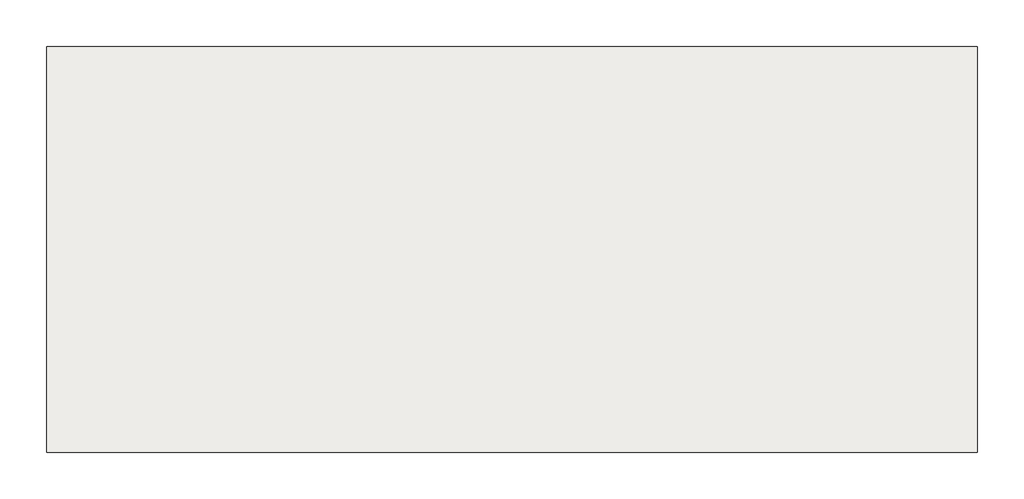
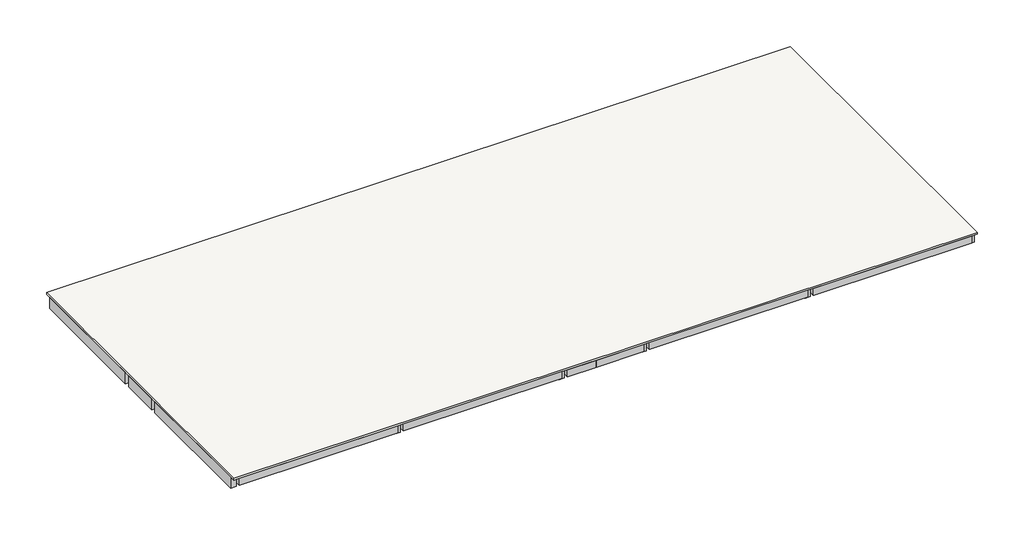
# One storey: 21 beams, 1 slab.
"""IFC4 building model written with IfcOpenShell, lengths in millimetres."""

from ifc_helpers import new_model, si_unit, frame, origin, place, context, project, spatial, polyline, outline, extrude, faceted_brep, element, save

model = new_model("IFC4")

# Units and contexts
model_context = context("Model", 3, world=origin())
ifc_project = project(units=[si_unit("LENGTHUNIT", "METRE", prefix="MILLI")], contexts=[model_context])

# Site, building, storey
site = spatial("IfcSite", under=ifc_project)
building = spatial("IfcBuilding", under=site)
storey = spatial("IfcBuildingStorey", under=building, Name="屋顶", Elevation=9000.0)

# Beams
placement = place(None, origin())
element("IfcBeam", 1, ObjectType="混凝土 - 矩形梁 : KL1", at=placement, inside=storey, context=model_context, shape_type="Brep", body=[
    faceted_brep([(-16195.2046881, -564.7297059, 8400.0), (-16195.2046881, 5195.2702941, 8400.0), (-16195.2046881, 5195.2702941, 8920.0), (-16195.2046881, 3415.2702941, 8920.0), (-16195.2046881, 3215.2702941, 8920.0), (-16195.2046881, 1415.2702941, 8920.0), (-16195.2046881, 1215.2702941, 8920.0), (-16195.2046881, -564.7297059, 8920.0), (-16435.2046881, 5195.2702941, 8400.0), (-16435.2046881, -564.7297059, 8400.0), (-16435.2046881, -564.7297059, 8920.0), (-16435.2046881, 5195.2702941, 8920.0)], [[[0, 1, 2, 3, 4, 5, 6, 7]], [[8, 1, 0, 9]], [[8, 9, 10, 11]], [[1, 8, 11, 2]], [[9, 0, 7, 10]], [[7, 6, 5, 4, 3, 2, 11, 10]]]),
    faceted_brep([(-16435.2046881, -8564.7297059, 8400.0), (-16195.2046881, -8564.7297059, 8400.0), (-16195.2046881, -8564.7297059, 8920.0), (-16435.2046881, -8564.7297059, 8920.0), (-16195.2046881, -2804.7297059, 8400.0), (-16435.2046881, -2804.7297059, 8400.0), (-16435.2046881, -2804.7297059, 8920.0), (-16195.2046881, -2804.7297059, 8920.0), (-16195.2046881, -4584.7297059, 8920.0), (-16195.2046881, -4784.7297059, 8920.0), (-16195.2046881, -6584.7297059, 8920.0), (-16195.2046881, -6784.7297059, 8920.0)], [[[0, 1, 2, 3]], [[4, 5, 6, 7]], [[1, 4, 7, 8, 9, 10, 11, 2]], [[1, 0, 5, 4]], [[5, 0, 3, 6]], [[3, 2, 11, 10, 9, 8, 7, 6]]]),
    faceted_brep([(-16435.2046881, -2564.7297059, 8400.0), (-16195.2046881, -2564.7297059, 8400.0), (-16195.2046881, -2564.7297059, 8920.0), (-16435.2046881, -2564.7297059, 8920.0), (-16195.2046881, -804.7297059, 8400.0), (-16435.2046881, -804.7297059, 8400.0), (-16435.2046881, -804.7297059, 8920.0), (-16195.2046881, -804.7297059, 8920.0)], [[[0, 1, 2, 3]], [[4, 5, 6, 7]], [[1, 4, 7, 2]], [[1, 0, 5, 4]], [[5, 0, 3, 6]], [[3, 2, 7, 6]]]),
])
element("IfcBeam", 2, ObjectType="混凝土 - 矩形梁 : KL1", at=placement, inside=storey, context=model_context, shape_type="Brep", body=[
    faceted_brep([(-8995.2046881, -564.7297059, 8400.0), (-8995.2046881, 5195.2702941, 8400.0), (-8995.2046881, 5195.2702941, 8920.0), (-8995.2046881, 3415.2702941, 8920.0), (-8995.2046881, 3215.2702941, 8920.0), (-8995.2046881, 1415.2702941, 8920.0), (-8995.2046881, 1215.2702941, 8920.0), (-8995.2046881, -564.7297059, 8920.0), (-9235.2046881, 5195.2702941, 8400.0), (-9235.2046881, -564.7297059, 8400.0), (-9235.2046881, -564.7297059, 8920.0), (-9235.2046881, 1215.2702941, 8920.0), (-9235.2046881, 1415.2702941, 8920.0), (-9235.2046881, 3215.2702941, 8920.0), (-9235.2046881, 3415.2702941, 8920.0), (-9235.2046881, 5195.2702941, 8920.0)], [[[0, 1, 2, 3, 4, 5, 6, 7]], [[8, 1, 0, 9]], [[8, 9, 10, 11, 12, 13, 14, 15]], [[1, 8, 15, 2]], [[9, 0, 7, 10]], [[7, 6, 5, 4, 3, 2, 15, 14, 13, 12, 11, 10]]]),
    faceted_brep([(-9235.2046881, -8564.7297059, 8400.0), (-8995.2046881, -8564.7297059, 8400.0), (-8995.2046881, -8564.7297059, 8920.0), (-9235.2046881, -8564.7297059, 8920.0), (-8995.2046881, -2804.7297059, 8400.0), (-9235.2046881, -2804.7297059, 8400.0), (-9235.2046881, -2804.7297059, 8920.0), (-8995.2046881, -2804.7297059, 8920.0), (-8995.2046881, -4584.7297059, 8920.0), (-8995.2046881, -4784.7297059, 8920.0), (-8995.2046881, -6584.7297059, 8920.0), (-8995.2046881, -6784.7297059, 8920.0), (-9235.2046881, -6784.7297059, 8920.0), (-9235.2046881, -6584.7297059, 8920.0), (-9235.2046881, -4784.7297059, 8920.0), (-9235.2046881, -4584.7297059, 8920.0)], [[[0, 1, 2, 3]], [[4, 5, 6, 7]], [[1, 4, 7, 8, 9, 10, 11, 2]], [[1, 0, 5, 4]], [[5, 0, 3, 12, 13, 14, 15, 6]], [[3, 2, 11, 10, 9, 8, 7, 6, 15, 14, 13, 12]]]),
    faceted_brep([(-9235.2046881, -2564.7297059, 8400.0), (-8995.2046881, -2564.7297059, 8400.0), (-8995.2046881, -2564.7297059, 8920.0), (-9235.2046881, -2564.7297059, 8920.0), (-8995.2046881, -804.7297059, 8400.0), (-9235.2046881, -804.7297059, 8400.0), (-9235.2046881, -804.7297059, 8920.0), (-8995.2046881, -804.7297059, 8920.0)], [[[0, 1, 2, 3]], [[4, 5, 6, 7]], [[1, 4, 7, 2]], [[1, 0, 5, 4]], [[5, 0, 3, 6]], [[3, 2, 7, 6]]]),
])
element("IfcBeam", 3, ObjectType="混凝土 - 矩形梁 : KL1", at=placement, inside=storey, context=model_context, shape_type="Brep", body=[
    faceted_brep([(-1795.2046881, -564.7297059, 8400.0), (-1795.2046881, 5195.2702941, 8400.0), (-1795.2046881, 5195.2702941, 8920.0), (-1795.2046881, -564.7297059, 8920.0), (-2035.2046881, 5195.2702941, 8400.0), (-2035.2046881, -564.7297059, 8400.0), (-2035.2046881, -564.7297059, 8920.0), (-2035.2046881, 1215.2702941, 8920.0), (-2035.2046881, 1415.2702941, 8920.0), (-2035.2046881, 3215.2702941, 8920.0), (-2035.2046881, 3415.2702941, 8920.0), (-2035.2046881, 5195.2702941, 8920.0)], [[[0, 1, 2, 3]], [[4, 1, 0, 5]], [[4, 5, 6, 7, 8, 9, 10, 11]], [[1, 4, 11, 2]], [[5, 0, 3, 6]], [[3, 2, 11, 10, 9, 8, 7, 6]]]),
    faceted_brep([(-2035.2046881, -8564.7297059, 8400.0), (-1795.2046881, -8564.7297059, 8400.0), (-1795.2046881, -8564.7297059, 8920.0), (-2035.2046881, -8564.7297059, 8920.0), (-1795.2046881, -2804.7297059, 8400.0), (-2035.2046881, -2804.7297059, 8400.0), (-2035.2046881, -2804.7297059, 8920.0), (-1795.2046881, -2804.7297059, 8920.0), (-2035.2046881, -6784.7297059, 8920.0), (-2035.2046881, -6584.7297059, 8920.0), (-2035.2046881, -4784.7297059, 8920.0), (-2035.2046881, -4584.7297059, 8920.0)], [[[0, 1, 2, 3]], [[4, 5, 6, 7]], [[1, 4, 7, 2]], [[1, 0, 5, 4]], [[5, 0, 3, 8, 9, 10, 11, 6]], [[3, 2, 7, 6, 11, 10, 9, 8]]]),
    faceted_brep([(-2035.2046881, -2564.7297059, 8400.0), (-1795.2046881, -2564.7297059, 8400.0), (-1795.2046881, -2564.7297059, 8920.0), (-2035.2046881, -2564.7297059, 8920.0), (-1795.2046881, -804.7297059, 8400.0), (-2035.2046881, -804.7297059, 8400.0), (-2035.2046881, -804.7297059, 8920.0), (-1795.2046881, -804.7297059, 8920.0)], [[[0, 1, 2, 3]], [[4, 5, 6, 7]], [[1, 4, 7, 2]], [[1, 0, 5, 4]], [[5, 0, 3, 6]], [[3, 2, 7, 6]]]),
])
element("IfcBeam", 4, ObjectType="混凝土 - 矩形梁 : KL1", at=placement, inside=storey, context=model_context, shape_type="Brep", body=[
    faceted_brep([(1804.7953119, -564.7297059, 8400.0), (1804.7953119, 5195.2702941, 8400.0), (1804.7953119, 5195.2702941, 8920.0), (1804.7953119, 3415.2702941, 8920.0), (1804.7953119, 3215.2702941, 8920.0), (1804.7953119, 1415.2702941, 8920.0), (1804.7953119, 1215.2702941, 8920.0), (1804.7953119, -564.7297059, 8920.0), (1564.7953119, 5195.2702941, 8400.0), (1564.7953119, -564.7297059, 8400.0), (1564.7953119, -564.7297059, 8920.0), (1564.7953119, 5195.2702941, 8920.0)], [[[0, 1, 2, 3, 4, 5, 6, 7]], [[8, 1, 0, 9]], [[8, 9, 10, 11]], [[1, 8, 11, 2]], [[9, 0, 7, 10]], [[7, 6, 5, 4, 3, 2, 11, 10]]]),
    faceted_brep([(1564.7953119, -8564.7297059, 8400.0), (1804.7953119, -8564.7297059, 8400.0), (1804.7953119, -8564.7297059, 8920.0), (1564.7953119, -8564.7297059, 8920.0), (1804.7953119, -2804.7297059, 8400.0), (1564.7953119, -2804.7297059, 8400.0), (1564.7953119, -2804.7297059, 8920.0), (1804.7953119, -2804.7297059, 8920.0), (1804.7953119, -4584.7297059, 8920.0), (1804.7953119, -4784.7297059, 8920.0), (1804.7953119, -6584.7297059, 8920.0), (1804.7953119, -6784.7297059, 8920.0)], [[[0, 1, 2, 3]], [[4, 5, 6, 7]], [[1, 4, 7, 8, 9, 10, 11, 2]], [[1, 0, 5, 4]], [[5, 0, 3, 6]], [[3, 2, 11, 10, 9, 8, 7, 6]]]),
    faceted_brep([(1564.7953119, -2564.7297059, 8400.0), (1804.7953119, -2564.7297059, 8400.0), (1804.7953119, -2564.7297059, 8920.0), (1564.7953119, -2564.7297059, 8920.0), (1804.7953119, -804.7297059, 8400.0), (1564.7953119, -804.7297059, 8400.0), (1564.7953119, -804.7297059, 8920.0), (1804.7953119, -804.7297059, 8920.0)], [[[0, 1, 2, 3]], [[4, 5, 6, 7]], [[1, 4, 7, 2]], [[1, 0, 5, 4]], [[5, 0, 3, 6]], [[3, 2, 7, 6]]]),
])
element("IfcBeam", 5, ObjectType="混凝土 - 矩形梁 : KL1", at=placement, inside=storey, context=model_context, shape_type="Brep", body=[
    faceted_brep([(9004.7953119, -564.7297059, 8400.0), (9004.7953119, 5195.2702941, 8400.0), (9004.7953119, 5195.2702941, 8920.0), (9004.7953119, 3415.2702941, 8920.0), (9004.7953119, 3215.2702941, 8920.0), (9004.7953119, 1415.2702941, 8920.0), (9004.7953119, 1215.2702941, 8920.0), (9004.7953119, -564.7297059, 8920.0), (8764.7953119, 5195.2702941, 8400.0), (8764.7953119, -564.7297059, 8400.0), (8764.7953119, -564.7297059, 8920.0), (8764.7953119, 1215.2702941, 8920.0), (8764.7953119, 1415.2702941, 8920.0), (8764.7953119, 3215.2702941, 8920.0), (8764.7953119, 3415.2702941, 8920.0), (8764.7953119, 5195.2702941, 8920.0)], [[[0, 1, 2, 3, 4, 5, 6, 7]], [[8, 1, 0, 9]], [[8, 9, 10, 11, 12, 13, 14, 15]], [[1, 8, 15, 2]], [[9, 0, 7, 10]], [[7, 6, 5, 4, 3, 2, 15, 14, 13, 12, 11, 10]]]),
    faceted_brep([(8764.7953119, -8564.7297059, 8400.0), (9004.7953119, -8564.7297059, 8400.0), (9004.7953119, -8564.7297059, 8920.0), (8764.7953119, -8564.7297059, 8920.0), (9004.7953119, -2804.7297059, 8400.0), (8764.7953119, -2804.7297059, 8400.0), (8764.7953119, -2804.7297059, 8920.0), (9004.7953119, -2804.7297059, 8920.0), (9004.7953119, -4584.7297059, 8920.0), (9004.7953119, -4784.7297059, 8920.0), (9004.7953119, -6584.7297059, 8920.0), (9004.7953119, -6784.7297059, 8920.0), (8764.7953119, -6784.7297059, 8920.0), (8764.7953119, -6584.7297059, 8920.0), (8764.7953119, -4784.7297059, 8920.0), (8764.7953119, -4584.7297059, 8920.0)], [[[0, 1, 2, 3]], [[4, 5, 6, 7]], [[1, 4, 7, 8, 9, 10, 11, 2]], [[1, 0, 5, 4]], [[5, 0, 3, 12, 13, 14, 15, 6]], [[3, 2, 11, 10, 9, 8, 7, 6, 15, 14, 13, 12]]]),
    faceted_brep([(8764.7953119, -2564.7297059, 8400.0), (9004.7953119, -2564.7297059, 8400.0), (9004.7953119, -2564.7297059, 8920.0), (8764.7953119, -2564.7297059, 8920.0), (9004.7953119, -804.7297059, 8400.0), (8764.7953119, -804.7297059, 8400.0), (8764.7953119, -804.7297059, 8920.0), (9004.7953119, -804.7297059, 8920.0)], [[[0, 1, 2, 3]], [[4, 5, 6, 7]], [[1, 4, 7, 2]], [[1, 0, 5, 4]], [[5, 0, 3, 6]], [[3, 2, 7, 6]]]),
])
element("IfcBeam", 6, ObjectType="混凝土 - 矩形梁 : KL1", at=placement, inside=storey, context=model_context, shape_type="Brep", body=[
    faceted_brep([(16204.7953119, -564.7297059, 8400.0), (16204.7953119, 5195.2702941, 8400.0), (16204.7953119, 5195.2702941, 8920.0), (16204.7953119, -564.7297059, 8920.0), (15964.7953119, 5195.2702941, 8400.0), (15964.7953119, -564.7297059, 8400.0), (15964.7953119, -564.7297059, 8920.0), (15964.7953119, 1215.2702941, 8920.0), (15964.7953119, 1415.2702941, 8920.0), (15964.7953119, 3215.2702941, 8920.0), (15964.7953119, 3415.2702941, 8920.0), (15964.7953119, 5195.2702941, 8920.0)], [[[0, 1, 2, 3]], [[4, 1, 0, 5]], [[4, 5, 6, 7, 8, 9, 10, 11]], [[1, 4, 11, 2]], [[5, 0, 3, 6]], [[3, 2, 11, 10, 9, 8, 7, 6]]]),
    faceted_brep([(15964.7953119, -8564.7297059, 8400.0), (16204.7953119, -8564.7297059, 8400.0), (16204.7953119, -8564.7297059, 8920.0), (15964.7953119, -8564.7297059, 8920.0), (16204.7953119, -2804.7297059, 8400.0), (15964.7953119, -2804.7297059, 8400.0), (15964.7953119, -2804.7297059, 8920.0), (16204.7953119, -2804.7297059, 8920.0), (15964.7953119, -6784.7297059, 8920.0), (15964.7953119, -6584.7297059, 8920.0), (15964.7953119, -4784.7297059, 8920.0), (15964.7953119, -4584.7297059, 8920.0)], [[[0, 1, 2, 3]], [[4, 5, 6, 7]], [[1, 4, 7, 2]], [[1, 0, 5, 4]], [[5, 0, 3, 8, 9, 10, 11, 6]], [[3, 2, 7, 6, 11, 10, 9, 8]]]),
    faceted_brep([(15964.7953119, -2564.7297059, 8400.0), (16204.7953119, -2564.7297059, 8400.0), (16204.7953119, -2564.7297059, 8920.0), (15964.7953119, -2564.7297059, 8920.0), (16204.7953119, -804.7297059, 8400.0), (15964.7953119, -804.7297059, 8400.0), (15964.7953119, -804.7297059, 8920.0), (16204.7953119, -804.7297059, 8920.0)], [[[0, 1, 2, 3]], [[4, 5, 6, 7]], [[1, 4, 7, 2]], [[1, 0, 5, 4]], [[5, 0, 3, 6]], [[3, 2, 7, 6]]]),
])
element("IfcBeam", 7, ObjectType="混凝土 - 矩形梁 : KL2", at=placement, inside=storey, context=model_context, shape_type="SweptSolid", body=[
    extrude(outline(polyline([(-535.2046881, -8604.7297059), (-535.2046881, -8804.7297059), (-1795.2046881, -8804.7297059), (-1795.2046881, -8604.7297059), (-535.2046881, -8604.7297059)])), frame((0.0, 0.0, 8600.0), z_axis=(0.0, 0.0, 1.0), x_axis=(1.0, 0.0, 0.0)), (0.0, 0.0, 1.0), 320.0),
    extrude(outline(polyline([(-16195.2046881, -8804.7297059), (-16195.2046881, -8604.7297059), (-9235.2046881, -8604.7297059), (-9235.2046881, -8804.7297059), (-16195.2046881, -8804.7297059)])), frame((0.0, 0.0, 8600.0), z_axis=(0.0, 0.0, 1.0), x_axis=(1.0, 0.0, 0.0)), (0.0, 0.0, 1.0), 320.0),
    extrude(outline(polyline([(-8995.2046881, -8804.7297059), (-8995.2046881, -8604.7297059), (-2035.2046881, -8604.7297059), (-2035.2046881, -8804.7297059), (-8995.2046881, -8804.7297059)])), frame((0.0, 0.0, 8600.0), z_axis=(0.0, 0.0, 1.0), x_axis=(1.0, 0.0, 0.0)), (0.0, 0.0, 1.0), 320.0),
])
element("IfcBeam", 8, ObjectType="混凝土 - 矩形梁 : KL2", at=placement, inside=storey, context=model_context, shape_type="SweptSolid", body=[
    extrude(outline(polyline([(-2035.2046881, -2584.7297059), (-2035.2046881, -2784.7297059), (-8995.2046881, -2784.7297059), (-8995.2046881, -2584.7297059), (-2035.2046881, -2584.7297059)])), frame((0.0, 0.0, 8600.0), z_axis=(0.0, 0.0, 1.0), x_axis=(1.0, 0.0, 0.0)), (0.0, 0.0, 1.0), 320.0),
    extrude(outline(polyline([(-16195.2046881, -2784.7297059), (-16195.2046881, -2584.7297059), (-9235.2046881, -2584.7297059), (-9235.2046881, -2784.7297059), (-16195.2046881, -2784.7297059)])), frame((0.0, 0.0, 8600.0), z_axis=(0.0, 0.0, 1.0), x_axis=(1.0, 0.0, 0.0)), (0.0, 0.0, 1.0), 320.0),
])
element("IfcBeam", 9, ObjectType="混凝土 - 矩形梁 : KL2", at=placement, inside=storey, context=model_context, shape_type="SweptSolid", body=[
    extrude(outline(polyline([(-2035.2046881, -584.7297059), (-2035.2046881, -784.7297059), (-8995.2046881, -784.7297059), (-8995.2046881, -584.7297059), (-2035.2046881, -584.7297059)])), frame((0.0, 0.0, 8600.0), z_axis=(0.0, 0.0, 1.0), x_axis=(1.0, 0.0, 0.0)), (0.0, 0.0, 1.0), 320.0),
    extrude(outline(polyline([(-16195.2046881, -784.7297059), (-16195.2046881, -584.7297059), (-9235.2046881, -584.7297059), (-9235.2046881, -784.7297059), (-16195.2046881, -784.7297059)])), frame((0.0, 0.0, 8600.0), z_axis=(0.0, 0.0, 1.0), x_axis=(1.0, 0.0, 0.0)), (0.0, 0.0, 1.0), 320.0),
])
element("IfcBeam", 10, ObjectType="混凝土 - 矩形梁 : KL2", at=placement, inside=storey, context=model_context, shape_type="SweptSolid", body=[
    extrude(outline(polyline([(15964.7953119, 5435.2702941), (15964.7953119, 5235.2702941), (9004.7953119, 5235.2702941), (9004.7953119, 5435.2702941), (15964.7953119, 5435.2702941)])), frame((0.0, 0.0, 8600.0), z_axis=(0.0, 0.0, 1.0), x_axis=(1.0, 0.0, 0.0)), (0.0, 0.0, 1.0), 320.0),
    extrude(outline(polyline([(-16195.2046881, 5235.2702941), (-16195.2046881, 5435.2702941), (-9235.2046881, 5435.2702941), (-9235.2046881, 5235.2702941), (-16195.2046881, 5235.2702941)])), frame((0.0, 0.0, 8600.0), z_axis=(0.0, 0.0, 1.0), x_axis=(1.0, 0.0, 0.0)), (0.0, 0.0, 1.0), 320.0),
    extrude(outline(polyline([(-8995.2046881, 5235.2702941), (-8995.2046881, 5435.2702941), (-2035.2046881, 5435.2702941), (-2035.2046881, 5235.2702941), (-8995.2046881, 5235.2702941)])), frame((0.0, 0.0, 8600.0), z_axis=(0.0, 0.0, 1.0), x_axis=(1.0, 0.0, 0.0)), (0.0, 0.0, 1.0), 320.0),
    extrude(outline(polyline([(-1795.2046881, 5235.2702941), (-1795.2046881, 5435.2702941), (1564.7953119, 5435.2702941), (1564.7953119, 5235.2702941), (-1795.2046881, 5235.2702941)])), frame((0.0, 0.0, 8600.0), z_axis=(0.0, 0.0, 1.0), x_axis=(1.0, 0.0, 0.0)), (0.0, 0.0, 1.0), 320.0),
    extrude(outline(polyline([(1804.7953119, 5235.2702941), (1804.7953119, 5435.2702941), (8764.7953119, 5435.2702941), (8764.7953119, 5235.2702941), (1804.7953119, 5235.2702941)])), frame((0.0, 0.0, 8600.0), z_axis=(0.0, 0.0, 1.0), x_axis=(1.0, 0.0, 0.0)), (0.0, 0.0, 1.0), 320.0),
])
element("IfcBeam", 11, ObjectType="混凝土 - 矩形梁 : KL2", at=placement, inside=storey, context=model_context, shape_type="SweptSolid", body=[
    extrude(outline(polyline([(1804.7953119, 3215.2702941), (1804.7953119, 3415.2702941), (8764.7953119, 3415.2702941), (8764.7953119, 3215.2702941), (1804.7953119, 3215.2702941)])), frame((0.0, 0.0, 8600.0), z_axis=(0.0, 0.0, 1.0), x_axis=(1.0, 0.0, 0.0)), (0.0, 0.0, 1.0), 320.0),
    extrude(outline(polyline([(9004.7953119, 3215.2702941), (9004.7953119, 3415.2702941), (15964.7953119, 3415.2702941), (15964.7953119, 3215.2702941), (9004.7953119, 3215.2702941)])), frame((0.0, 0.0, 8600.0), z_axis=(0.0, 0.0, 1.0), x_axis=(1.0, 0.0, 0.0)), (0.0, 0.0, 1.0), 320.0),
])
element("IfcBeam", 12, ObjectType="混凝土 - 矩形梁 : KL2", at=placement, inside=storey, context=model_context, shape_type="SweptSolid", body=[
    extrude(outline(polyline([(1804.7953119, 1215.2702941), (1804.7953119, 1415.2702941), (8764.7953119, 1415.2702941), (8764.7953119, 1215.2702941), (1804.7953119, 1215.2702941)])), frame((0.0, 0.0, 8600.0), z_axis=(0.0, 0.0, 1.0), x_axis=(1.0, 0.0, 0.0)), (0.0, 0.0, 1.0), 320.0),
    extrude(outline(polyline([(9004.7953119, 1215.2702941), (9004.7953119, 1415.2702941), (15964.7953119, 1415.2702941), (15964.7953119, 1215.2702941), (9004.7953119, 1215.2702941)])), frame((0.0, 0.0, 8600.0), z_axis=(0.0, 0.0, 1.0), x_axis=(1.0, 0.0, 0.0)), (0.0, 0.0, 1.0), 320.0),
])
element("IfcBeam", 13, ObjectType="混凝土 - 矩形梁 : KL2", at=placement, inside=storey, context=model_context, shape_type="SweptSolid", body=[
    extrude(outline(polyline([(1804.7953119, -4784.7297059), (1804.7953119, -4584.7297059), (8764.7953119, -4584.7297059), (8764.7953119, -4784.7297059), (1804.7953119, -4784.7297059)])), frame((0.0, 0.0, 8600.0), z_axis=(0.0, 0.0, 1.0), x_axis=(1.0, 0.0, 0.0)), (0.0, 0.0, 1.0), 320.0),
    extrude(outline(polyline([(9004.7953119, -4784.7297059), (9004.7953119, -4584.7297059), (15964.7953119, -4584.7297059), (15964.7953119, -4784.7297059), (9004.7953119, -4784.7297059)])), frame((0.0, 0.0, 8600.0), z_axis=(0.0, 0.0, 1.0), x_axis=(1.0, 0.0, 0.0)), (0.0, 0.0, 1.0), 320.0),
])
element("IfcBeam", 14, ObjectType="混凝土 - 矩形梁 : KL2", at=placement, inside=storey, context=model_context, shape_type="SweptSolid", body=[
    extrude(outline(polyline([(1804.7953119, -6784.7297059), (1804.7953119, -6584.7297059), (8764.7953119, -6584.7297059), (8764.7953119, -6784.7297059), (1804.7953119, -6784.7297059)])), frame((0.0, 0.0, 8600.0), z_axis=(0.0, 0.0, 1.0), x_axis=(1.0, 0.0, 0.0)), (0.0, 0.0, 1.0), 320.0),
    extrude(outline(polyline([(9004.7953119, -6784.7297059), (9004.7953119, -6584.7297059), (15964.7953119, -6584.7297059), (15964.7953119, -6784.7297059), (9004.7953119, -6784.7297059)])), frame((0.0, 0.0, 8600.0), z_axis=(0.0, 0.0, 1.0), x_axis=(1.0, 0.0, 0.0)), (0.0, 0.0, 1.0), 320.0),
])
element("IfcBeam", 15, ObjectType="混凝土 - 矩形梁 : KL2", at=placement, inside=storey, context=model_context, shape_type="SweptSolid", body=[
    extrude(outline(polyline([(-16195.2046881, 1215.2702941), (-16195.2046881, 1415.2702941), (-9235.2046881, 1415.2702941), (-9235.2046881, 1215.2702941), (-16195.2046881, 1215.2702941)])), frame((0.0, 0.0, 8600.0), z_axis=(0.0, 0.0, 1.0), x_axis=(1.0, 0.0, 0.0)), (0.0, 0.0, 1.0), 320.0),
    extrude(outline(polyline([(-8995.2046881, 1215.2702941), (-8995.2046881, 1415.2702941), (-2035.2046881, 1415.2702941), (-2035.2046881, 1215.2702941), (-8995.2046881, 1215.2702941)])), frame((0.0, 0.0, 8600.0), z_axis=(0.0, 0.0, 1.0), x_axis=(1.0, 0.0, 0.0)), (0.0, 0.0, 1.0), 320.0),
])
element("IfcBeam", 16, ObjectType="混凝土 - 矩形梁 : KL2", at=placement, inside=storey, context=model_context, shape_type="SweptSolid", body=[
    extrude(outline(polyline([(15964.7953119, -2584.7297059), (15964.7953119, -2784.7297059), (9004.7953119, -2784.7297059), (9004.7953119, -2584.7297059), (15964.7953119, -2584.7297059)])), frame((0.0, 0.0, 8600.0), z_axis=(0.0, 0.0, 1.0), x_axis=(1.0, 0.0, 0.0)), (0.0, 0.0, 1.0), 320.0),
    extrude(outline(polyline([(1804.7953119, -2784.7297059), (1804.7953119, -2584.7297059), (8764.7953119, -2584.7297059), (8764.7953119, -2784.7297059), (1804.7953119, -2784.7297059)])), frame((0.0, 0.0, 8600.0), z_axis=(0.0, 0.0, 1.0), x_axis=(1.0, 0.0, 0.0)), (0.0, 0.0, 1.0), 320.0),
])
element("IfcBeam", 17, ObjectType="混凝土 - 矩形梁 : KL2", at=placement, inside=storey, context=model_context, shape_type="SweptSolid", body=[
    extrude(outline(polyline([(15964.7953119, -584.7297059), (15964.7953119, -784.7297059), (9004.7953119, -784.7297059), (9004.7953119, -584.7297059), (15964.7953119, -584.7297059)])), frame((0.0, 0.0, 8600.0), z_axis=(0.0, 0.0, 1.0), x_axis=(1.0, 0.0, 0.0)), (0.0, 0.0, 1.0), 320.0),
    extrude(outline(polyline([(1804.7953119, -784.7297059), (1804.7953119, -584.7297059), (8764.7953119, -584.7297059), (8764.7953119, -784.7297059), (1804.7953119, -784.7297059)])), frame((0.0, 0.0, 8600.0), z_axis=(0.0, 0.0, 1.0), x_axis=(1.0, 0.0, 0.0)), (0.0, 0.0, 1.0), 320.0),
])
element("IfcBeam", 18, ObjectType="混凝土 - 矩形梁 : KL2", at=placement, inside=storey, context=model_context, shape_type="SweptSolid", body=[
    extrude(outline(polyline([(-16195.2046881, -4784.7297059), (-16195.2046881, -4584.7297059), (-9235.2046881, -4584.7297059), (-9235.2046881, -4784.7297059), (-16195.2046881, -4784.7297059)])), frame((0.0, 0.0, 8600.0), z_axis=(0.0, 0.0, 1.0), x_axis=(1.0, 0.0, 0.0)), (0.0, 0.0, 1.0), 320.0),
    extrude(outline(polyline([(-8995.2046881, -4784.7297059), (-8995.2046881, -4584.7297059), (-2035.2046881, -4584.7297059), (-2035.2046881, -4784.7297059), (-8995.2046881, -4784.7297059)])), frame((0.0, 0.0, 8600.0), z_axis=(0.0, 0.0, 1.0), x_axis=(1.0, 0.0, 0.0)), (0.0, 0.0, 1.0), 320.0),
])
element("IfcBeam", 19, ObjectType="混凝土 - 矩形梁 : KL2", at=placement, inside=storey, context=model_context, shape_type="SweptSolid", body=[
    extrude(outline(polyline([(-16195.2046881, -6784.7297059), (-16195.2046881, -6584.7297059), (-9235.2046881, -6584.7297059), (-9235.2046881, -6784.7297059), (-16195.2046881, -6784.7297059)])), frame((0.0, 0.0, 8600.0), z_axis=(0.0, 0.0, 1.0), x_axis=(1.0, 0.0, 0.0)), (0.0, 0.0, 1.0), 320.0),
    extrude(outline(polyline([(-8995.2046881, -6784.7297059), (-8995.2046881, -6584.7297059), (-2035.2046881, -6584.7297059), (-2035.2046881, -6784.7297059), (-8995.2046881, -6784.7297059)])), frame((0.0, 0.0, 8600.0), z_axis=(0.0, 0.0, 1.0), x_axis=(1.0, 0.0, 0.0)), (0.0, 0.0, 1.0), 320.0),
])
element("IfcBeam", 20, ObjectType="混凝土 - 矩形梁 : KL2", at=placement, inside=storey, context=model_context, shape_type="SweptSolid", body=[
    extrude(outline(polyline([(15964.7953119, -8604.7297059), (15964.7953119, -8804.7297059), (9004.7953119, -8804.7297059), (9004.7953119, -8604.7297059), (15964.7953119, -8604.7297059)])), frame((0.0, 0.0, 8600.0), z_axis=(0.0, 0.0, 1.0), x_axis=(1.0, 0.0, 0.0)), (0.0, 0.0, 1.0), 320.0),
    extrude(outline(polyline([(-535.2046881, -8804.7297059), (-535.2046881, -8604.7297059), (1564.7953119, -8604.7297059), (1564.7953119, -8804.7297059), (-535.2046881, -8804.7297059)])), frame((0.0, 0.0, 8600.0), z_axis=(0.0, 0.0, 1.0), x_axis=(1.0, 0.0, 0.0)), (0.0, 0.0, 1.0), 320.0),
    extrude(outline(polyline([(1804.7953119, -8804.7297059), (1804.7953119, -8604.7297059), (8764.7953119, -8604.7297059), (8764.7953119, -8804.7297059), (1804.7953119, -8804.7297059)])), frame((0.0, 0.0, 8600.0), z_axis=(0.0, 0.0, 1.0), x_axis=(1.0, 0.0, 0.0)), (0.0, 0.0, 1.0), 320.0),
])
element("IfcBeam", 21, ObjectType="混凝土 - 矩形梁 : KL2", at=placement, inside=storey, context=model_context, shape_type="SweptSolid", body=[
    extrude(outline(polyline([(-16195.2046881, 3215.2702941), (-16195.2046881, 3415.2702941), (-9235.2046881, 3415.2702941), (-9235.2046881, 3215.2702941), (-16195.2046881, 3215.2702941)])), frame((0.0, 0.0, 8600.0), z_axis=(0.0, 0.0, 1.0), x_axis=(1.0, 0.0, 0.0)), (0.0, 0.0, 1.0), 320.0),
    extrude(outline(polyline([(-8995.2046881, 3215.2702941), (-8995.2046881, 3415.2702941), (-2035.2046881, 3415.2702941), (-2035.2046881, 3215.2702941), (-8995.2046881, 3215.2702941)])), frame((0.0, 0.0, 8600.0), z_axis=(0.0, 0.0, 1.0), x_axis=(1.0, 0.0, 0.0)), (0.0, 0.0, 1.0), 320.0),
])

# Slab
element("IfcSlab", 22, ObjectType="常规 - 80mm", at=placement, inside=storey, context=model_context, shape_type="Brep", body=[
    faceted_brep([(16204.7953119, 5435.2702941, 8920.0), (16204.7953119, 5195.2702941, 8920.0), (16204.7953119, -564.7297059, 8920.0), (16204.7953119, -804.7297059, 8920.0), (16204.7953119, -2564.7297059, 8920.0), (16204.7953119, -2804.7297059, 8920.0), (16204.7953119, -8564.7297059, 8920.0), (16204.7953119, -8804.7297059, 8920.0), (15964.7953119, -8804.7297059, 8920.0), (9004.7953119, -8804.7297059, 8920.0), (8764.7953119, -8804.7297059, 8920.0), (1804.7953119, -8804.7297059, 8920.0), (1564.7953119, -8804.7297059, 8920.0), (-535.2046881, -8804.7297059, 8920.0), (-1795.2046881, -8804.7297059, 8920.0), (-2035.2046881, -8804.7297059, 8920.0), (-8995.2046881, -8804.7297059, 8920.0), (-9235.2046881, -8804.7297059, 8920.0), (-16195.2046881, -8804.7297059, 8920.0), (-16435.2046881, -8804.7297059, 8920.0), (-16435.2046881, -8564.7297059, 8920.0), (-16435.2046881, -2804.7297059, 8920.0), (-16435.2046881, -2564.7297059, 8920.0), (-16435.2046881, -804.7297059, 8920.0), (-16435.2046881, -564.7297059, 8920.0), (-16435.2046881, 5195.2702941, 8920.0), (-16435.2046881, 5435.2702941, 8920.0), (-16195.2046881, 5435.2702941, 8920.0), (-9235.2046881, 5435.2702941, 8920.0), (-8995.2046881, 5435.2702941, 8920.0), (-2035.2046881, 5435.2702941, 8920.0), (-1795.2046881, 5435.2702941, 8920.0), (1564.7953119, 5435.2702941, 8920.0), (1804.7953119, 5435.2702941, 8920.0), (8764.7953119, 5435.2702941, 8920.0), (9004.7953119, 5435.2702941, 8920.0), (15964.7953119, 5435.2702941, 8920.0), (16204.7953119, 5435.2702941, 9000.0), (-16435.2046881, 5435.2702941, 9000.0), (-16435.2046881, -8804.7297059, 9000.0), (16204.7953119, -8804.7297059, 9000.0)], [[[0, 1, 2, 3, 4, 5, 6, 7, 8, 9, 10, 11, 12, 13, 14, 15, 16, 17, 18, 19, 20, 21, 22, 23, 24, 25, 26, 27, 28, 29, 30, 31, 32, 33, 34, 35, 36]], [[37, 38, 39, 40]], [[7, 6, 5, 4, 3, 2, 1, 0, 37, 40]], [[19, 18, 17, 16, 15, 14, 13, 12, 11, 10, 9, 8, 7, 40, 39]], [[26, 25, 24, 23, 22, 21, 20, 19, 39, 38]], [[0, 36, 35, 34, 33, 32, 31, 30, 29, 28, 27, 26, 38, 37]]]),
])

save(model, "model.ifc")
